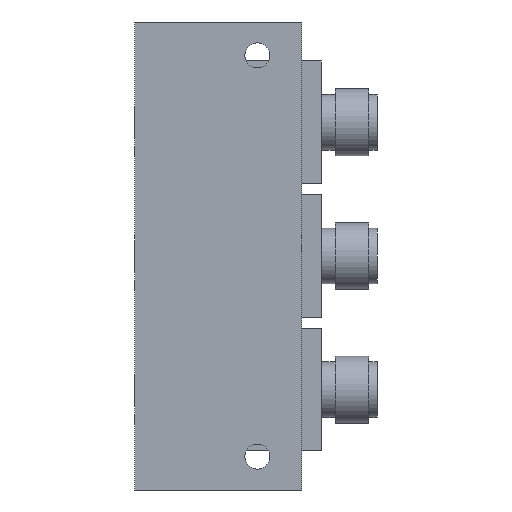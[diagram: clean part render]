
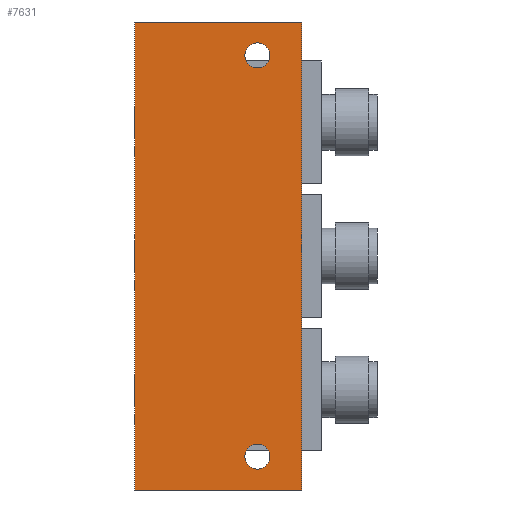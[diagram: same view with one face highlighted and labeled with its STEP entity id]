
A CAD part, left-side view. The second image highlights one B-rep face of the part: STEP entity #7631.
In plain terms, the highlighted planar face has unit normal (-1, 0, 0).
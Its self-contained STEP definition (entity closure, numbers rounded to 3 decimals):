
#63 = VERTEX_POINT ( 'NONE', #567 ) ;
#66 = VERTEX_POINT ( 'NONE', #570 ) ;
#135 = VERTEX_POINT ( 'NONE', #639 ) ;
#237 = VERTEX_POINT ( 'NONE', #6581 ) ;
#567 = CARTESIAN_POINT ( 'NONE',  ( -10., -15., 0. ) ) ;
#570 = CARTESIAN_POINT ( 'NONE',  ( -10., 15., -84. ) ) ;
#639 = CARTESIAN_POINT ( 'NONE',  ( -10., -15., -84. ) ) ;
#6357 = VERTEX_POINT ( 'NONE', #6358 ) ;
#6358 = CARTESIAN_POINT ( 'NONE',  ( -10., -7., -8.25 ) ) ;
#6363 = VERTEX_POINT ( 'NONE', #6364 ) ;
#6364 = CARTESIAN_POINT ( 'NONE',  ( -10., -7., -80.25 ) ) ;
#6581 = CARTESIAN_POINT ( 'NONE',  ( -10., 15., 0. ) ) ;
#7328 = EDGE_CURVE ( 'NONE', #66, #135, #12375, .T. ) ;
#7331 = EDGE_CURVE ( 'NONE', #6357, #6357, #12381, .T. ) ;
#7334 = EDGE_CURVE ( 'NONE', #63, #237, #12382, .T. ) ;
#7335 = EDGE_CURVE ( 'NONE', #63, #135, #12379, .T. ) ;
#7337 = EDGE_CURVE ( 'NONE', #237, #66, #12386, .T. ) ;
#7338 = EDGE_CURVE ( 'NONE', #6363, #6363, #12391, .T. ) ;
#7631 = ADVANCED_FACE ( 'NONE', ( #15611, #15610, #15620 ), #14850, .T. ) ;
#9141 = ORIENTED_EDGE ( 'NONE', *, *, #7338, .T. ) ;
#9142 = ORIENTED_EDGE ( 'NONE', *, *, #7331, .T. ) ;
#9143 = ORIENTED_EDGE ( 'NONE', *, *, #7328, .T. ) ;
#9144 = ORIENTED_EDGE ( 'NONE', *, *, #7335, .F. ) ;
#9145 = ORIENTED_EDGE ( 'NONE', *, *, #7334, .T. ) ;
#9146 = ORIENTED_EDGE ( 'NONE', *, *, #7337, .T. ) ;
#9641 = AXIS2_PLACEMENT_3D ( 'NONE', #13291, #13293, #13294 ) ;
#9654 = AXIS2_PLACEMENT_3D ( 'NONE', #13310, #13311, #13312 ) ;
#9941 = AXIS2_PLACEMENT_3D ( 'NONE', #14851, #14852, #14853 ) ;
#12375 = LINE ( 'NONE', #13286, #12376 ) ;
#12376 = VECTOR ( 'NONE', #13287, 1000. ) ;
#12379 = LINE ( 'NONE', #13303, #12387 ) ;
#12381 = CIRCLE ( 'NONE', #9641, 2.25 ) ;
#12382 = LINE ( 'NONE', #13300, #12384 ) ;
#12384 = VECTOR ( 'NONE', #13301, 1000. ) ;
#12386 = LINE ( 'NONE', #13308, #12389 ) ;
#12387 = VECTOR ( 'NONE', #13304, 1000. ) ;
#12389 = VECTOR ( 'NONE', #13309, 1000. ) ;
#12391 = CIRCLE ( 'NONE', #9654, 2.25 ) ;
#13286 = CARTESIAN_POINT ( 'NONE',  ( -10., -15., -84. ) ) ;
#13287 = DIRECTION ( 'NONE',  ( 0., -1., 0. ) ) ;
#13291 = CARTESIAN_POINT ( 'NONE',  ( -10., -7., -6. ) ) ;
#13293 = DIRECTION ( 'NONE',  ( 1., 0., 0. ) ) ;
#13294 = DIRECTION ( 'NONE',  ( 0., 0., -1. ) ) ;
#13300 = CARTESIAN_POINT ( 'NONE',  ( -10., -15., 0. ) ) ;
#13301 = DIRECTION ( 'NONE',  ( 0., 1., 0. ) ) ;
#13303 = CARTESIAN_POINT ( 'NONE',  ( -10., -15., 0. ) ) ;
#13304 = DIRECTION ( 'NONE',  ( 0., 0., -1. ) ) ;
#13308 = CARTESIAN_POINT ( 'NONE',  ( -10., 15., 0. ) ) ;
#13309 = DIRECTION ( 'NONE',  ( 0., 0., -1. ) ) ;
#13310 = CARTESIAN_POINT ( 'NONE',  ( -10., -7., -78. ) ) ;
#13311 = DIRECTION ( 'NONE',  ( 1., 0., 0. ) ) ;
#13312 = DIRECTION ( 'NONE',  ( 0., 0., -1. ) ) ;
#14850 = PLANE ( 'NONE',  #9941 ) ;
#14851 = CARTESIAN_POINT ( 'NONE',  ( -10., 15., 0. ) ) ;
#14852 = DIRECTION ( 'NONE',  ( -1., 0., 0. ) ) ;
#14853 = DIRECTION ( 'NONE',  ( 0., 0.707, 0.707 ) ) ;
#15610 = FACE_BOUND ( 'NONE', #16370, .T. ) ;
#15611 = FACE_BOUND ( 'NONE', #16359, .T. ) ;
#15620 = FACE_OUTER_BOUND ( 'NONE', #16373, .T. ) ;
#16359 = EDGE_LOOP ( 'NONE', ( #9141 ) ) ;
#16370 = EDGE_LOOP ( 'NONE', ( #9142 ) ) ;
#16373 = EDGE_LOOP ( 'NONE', ( #9143, #9144, #9145, #9146 ) ) ;
